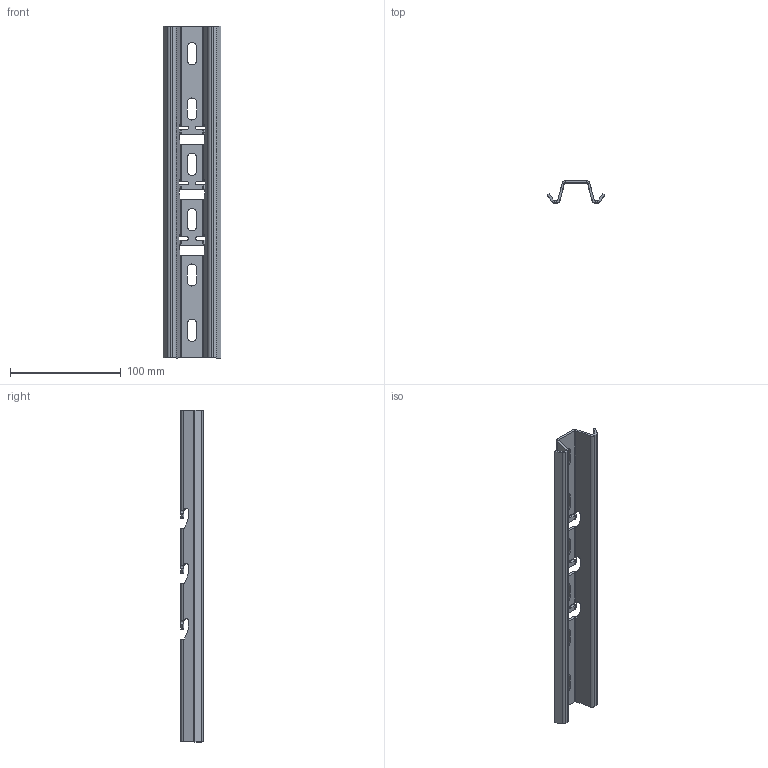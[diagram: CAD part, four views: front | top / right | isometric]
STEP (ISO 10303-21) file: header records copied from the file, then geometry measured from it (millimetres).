
FILE_DESCRIPTION (( 'STEP AP214' ), '1' );
FILE_NAME ('C-SVO_150.STEP', '2021-10-15T08:47:28', ( '' ), ( '' ), 'SwSTEP 2.0', 'SolidWorks 2019', '' );
FILE_SCHEMA (( 'AUTOMOTIVE_DESIGN' ));
Length unit declared in the file: millimetre
Products named in the file (1): C-SVO_150
Bounding box: 52 x 20 x 300 mm (x, y, z)
Volume: 45779.3 mm3; surface area: 48787.2 mm2
Topology: 1 solids, 1 shells, 216 faces, 540 edges, 320 vertices
Faces by surface type: plane 138, cylinder 72, bspline 6
Entity records: 6538 total; most frequent: CARTESIAN_POINT 1323, DIRECTION 1082, ORIENTED_EDGE 1080, EDGE_CURVE 540, LINE 372, VECTOR 372, AXIS2_PLACEMENT_3D 355, VERTEX_POINT 320
